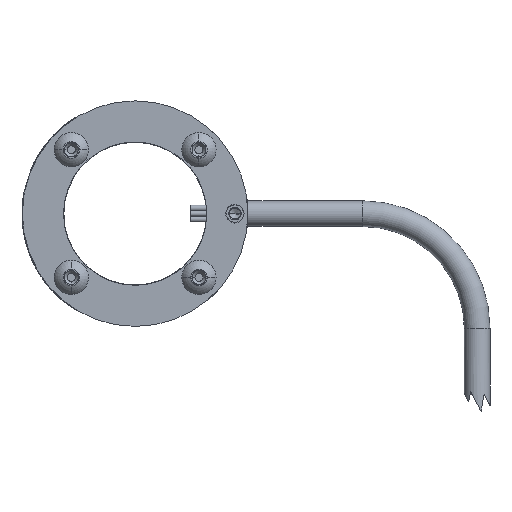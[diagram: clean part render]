
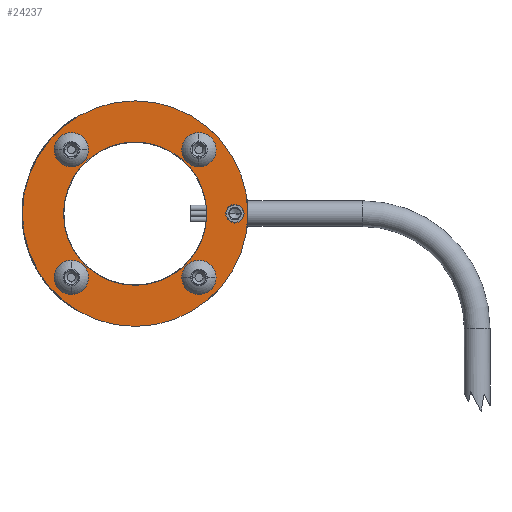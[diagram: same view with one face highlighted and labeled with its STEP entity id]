
A CAD part, front view. The second image highlights one B-rep face of the part: STEP entity #24237.
In plain terms, the highlighted planar face has unit normal (0, -1, 0).
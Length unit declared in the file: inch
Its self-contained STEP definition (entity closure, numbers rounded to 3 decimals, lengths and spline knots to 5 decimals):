
#197 = CIRCLE ( 'NONE', #14238, 0.06496 ) ;
#246 = CARTESIAN_POINT ( 'NONE',  ( 0.55678, 0., 0.49182 ) ) ;
#356 = CIRCLE ( 'NONE', #16890, 0.06496 ) ;
#378 = AXIS2_PLACEMENT_3D ( 'NONE', #1751, #19041, #17143 ) ;
#566 = DIRECTION ( 'NONE',  ( 0., 0., 1. ) ) ;
#1046 = CIRCLE ( 'NONE', #3454, 0.06496 ) ;
#1149 = EDGE_LOOP ( 'NONE', ( #19861, #21563 ) ) ;
#1174 = EDGE_CURVE ( 'NONE', #8850, #17797, #4151, .T. ) ;
#1673 = CARTESIAN_POINT ( 'NONE',  ( 0., 0., 0.625 ) ) ;
#1751 = CARTESIAN_POINT ( 'NONE',  ( 0.55678, 0., -0.55678 ) ) ;
#1879 = DIRECTION ( 'NONE',  ( 0., 0., -1. ) ) ;
#2072 = EDGE_CURVE ( 'NONE', #5225, #10701, #6547, .T. ) ;
#2658 = EDGE_CURVE ( 'NONE', #5389, #6640, #356, .T. ) ;
#2995 = DIRECTION ( 'NONE',  ( 0., 0., -1. ) ) ;
#3006 = CARTESIAN_POINT ( 'NONE',  ( 0., 0., -0.625 ) ) ;
#3112 = ORIENTED_EDGE ( 'NONE', *, *, #21999, .F. ) ;
#3119 = CIRCLE ( 'NONE', #18402, 0.0795 ) ;
#3389 = EDGE_CURVE ( 'NONE', #19702, #4854, #3119, .T. ) ;
#3454 = AXIS2_PLACEMENT_3D ( 'NONE', #11706, #3987, #19574 ) ;
#3569 = ORIENTED_EDGE ( 'NONE', *, *, #14480, .T. ) ;
#3624 = AXIS2_PLACEMENT_3D ( 'NONE', #13076, #20942, #21108 ) ;
#3987 = DIRECTION ( 'NONE',  ( 0., -1., 0. ) ) ;
#4151 = CIRCLE ( 'NONE', #378, 0.06496 ) ;
#4578 = CIRCLE ( 'NONE', #20808, 0.984 ) ;
#4854 = VERTEX_POINT ( 'NONE', #22881 ) ;
#5152 = AXIS2_PLACEMENT_3D ( 'NONE', #5564, #5467, #19410 ) ;
#5225 = VERTEX_POINT ( 'NONE', #9278 ) ;
#5389 = VERTEX_POINT ( 'NONE', #14199 ) ;
#5467 = DIRECTION ( 'NONE',  ( 0., -1., 0. ) ) ;
#5564 = CARTESIAN_POINT ( 'NONE',  ( 0.55678, 0., -0.55678 ) ) ;
#5579 = EDGE_CURVE ( 'NONE', #13173, #22211, #8585, .T. ) ;
#5692 = PLANE ( 'NONE',  #11136 ) ;
#6277 = DIRECTION ( 'NONE',  ( 0., 0., 1. ) ) ;
#6354 = DIRECTION ( 'NONE',  ( 0., 1., 0. ) ) ;
#6547 = CIRCLE ( 'NONE', #12080, 0.06496 ) ;
#6640 = VERTEX_POINT ( 'NONE', #246 ) ;
#7179 = AXIS2_PLACEMENT_3D ( 'NONE', #13628, #25379, #1879 ) ;
#7506 = EDGE_CURVE ( 'NONE', #6640, #5389, #9912, .T. ) ;
#7933 = ORIENTED_EDGE ( 'NONE', *, *, #7506, .F. ) ;
#8099 = CARTESIAN_POINT ( 'NONE',  ( 0., 0., 0. ) ) ;
#8404 = DIRECTION ( 'NONE',  ( 0., 0., -1. ) ) ;
#8585 = CIRCLE ( 'NONE', #22540, 0.625 ) ;
#8850 = VERTEX_POINT ( 'NONE', #24803 ) ;
#9278 = CARTESIAN_POINT ( 'NONE',  ( -0.55678, 0., -0.49182 ) ) ;
#9435 = EDGE_LOOP ( 'NONE', ( #7933, #16337 ) ) ;
#9624 = CARTESIAN_POINT ( 'NONE',  ( 0.55678, 0., -0.62174 ) ) ;
#9672 = ORIENTED_EDGE ( 'NONE', *, *, #24697, .F. ) ;
#9687 = ORIENTED_EDGE ( 'NONE', *, *, #14555, .F. ) ;
#9912 = CIRCLE ( 'NONE', #3624, 0.06496 ) ;
#9928 = ORIENTED_EDGE ( 'NONE', *, *, #1174, .F. ) ;
#9944 = CIRCLE ( 'NONE', #14276, 0.625 ) ;
#9983 = FACE_BOUND ( 'NONE', #24358, .T. ) ;
#10317 = CARTESIAN_POINT ( 'NONE',  ( 0., 0., 0. ) ) ;
#10378 = ORIENTED_EDGE ( 'NONE', *, *, #5579, .T. ) ;
#10671 = CARTESIAN_POINT ( 'NONE',  ( 0.871, 0., 0. ) ) ;
#10701 = VERTEX_POINT ( 'NONE', #23976 ) ;
#10888 = EDGE_CURVE ( 'NONE', #15066, #16962, #4578, .T. ) ;
#11136 = AXIS2_PLACEMENT_3D ( 'NONE', #15561, #11842, #23849 ) ;
#11542 = FACE_BOUND ( 'NONE', #17482, .T. ) ;
#11706 = CARTESIAN_POINT ( 'NONE',  ( -0.55678, 0., 0.55678 ) ) ;
#11842 = DIRECTION ( 'NONE',  ( 0., 1., 0. ) ) ;
#12080 = AXIS2_PLACEMENT_3D ( 'NONE', #21628, #14020, #17829 ) ;
#12187 = CARTESIAN_POINT ( 'NONE',  ( -0.55678, 0., 0.55678 ) ) ;
#12194 = EDGE_CURVE ( 'NONE', #17797, #8850, #24877, .T. ) ;
#12653 = DIRECTION ( 'NONE',  ( 0., -1., 0. ) ) ;
#12696 = CIRCLE ( 'NONE', #18728, 0.984 ) ;
#12767 = DIRECTION ( 'NONE',  ( 0., -1., 0. ) ) ;
#12888 = DIRECTION ( 'NONE',  ( 0., 0., -1. ) ) ;
#13066 = FACE_BOUND ( 'NONE', #1149, .T. ) ;
#13076 = CARTESIAN_POINT ( 'NONE',  ( 0.55678, 0., 0.55678 ) ) ;
#13173 = VERTEX_POINT ( 'NONE', #1673 ) ;
#13481 = CARTESIAN_POINT ( 'NONE',  ( 0., 0., -0.984 ) ) ;
#13628 = CARTESIAN_POINT ( 'NONE',  ( -0.55678, 0., -0.55678 ) ) ;
#14020 = DIRECTION ( 'NONE',  ( 0., -1., 0. ) ) ;
#14133 = AXIS2_PLACEMENT_3D ( 'NONE', #24731, #18845, #12888 ) ;
#14199 = CARTESIAN_POINT ( 'NONE',  ( 0.55678, 0., 0.62174 ) ) ;
#14215 = DIRECTION ( 'NONE',  ( 0., 1., 0. ) ) ;
#14238 = AXIS2_PLACEMENT_3D ( 'NONE', #12187, #16170, #8404 ) ;
#14276 = AXIS2_PLACEMENT_3D ( 'NONE', #18052, #16239, #6277 ) ;
#14480 = EDGE_CURVE ( 'NONE', #22211, #13173, #9944, .T. ) ;
#14555 = EDGE_CURVE ( 'NONE', #16962, #15066, #12696, .T. ) ;
#15066 = VERTEX_POINT ( 'NONE', #20698 ) ;
#15240 = FACE_OUTER_BOUND ( 'NONE', #25397, .T. ) ;
#15561 = CARTESIAN_POINT ( 'NONE',  ( 0., 0., 0. ) ) ;
#15646 = EDGE_CURVE ( 'NONE', #4854, #19702, #17413, .T. ) ;
#15718 = VERTEX_POINT ( 'NONE', #22812 ) ;
#16170 = DIRECTION ( 'NONE',  ( 0., -1., 0. ) ) ;
#16171 = FACE_BOUND ( 'NONE', #24609, .T. ) ;
#16239 = DIRECTION ( 'NONE',  ( 0., 1., 0. ) ) ;
#16337 = ORIENTED_EDGE ( 'NONE', *, *, #2658, .F. ) ;
#16454 = EDGE_LOOP ( 'NONE', ( #9672, #22083 ) ) ;
#16502 = EDGE_CURVE ( 'NONE', #15718, #19687, #1046, .T. ) ;
#16890 = AXIS2_PLACEMENT_3D ( 'NONE', #24608, #12767, #2995 ) ;
#16962 = VERTEX_POINT ( 'NONE', #13481 ) ;
#17143 = DIRECTION ( 'NONE',  ( 0., 0., -1. ) ) ;
#17413 = CIRCLE ( 'NONE', #14133, 0.0795 ) ;
#17482 = EDGE_LOOP ( 'NONE', ( #25387, #9928 ) ) ;
#17797 = VERTEX_POINT ( 'NONE', #9624 ) ;
#17829 = DIRECTION ( 'NONE',  ( 0., 0., -1. ) ) ;
#18052 = CARTESIAN_POINT ( 'NONE',  ( 0., 0., 0. ) ) ;
#18089 = DIRECTION ( 'NONE',  ( 0., 1., 0. ) ) ;
#18227 = CARTESIAN_POINT ( 'NONE',  ( 0., 0., 0. ) ) ;
#18298 = CIRCLE ( 'NONE', #7179, 0.06496 ) ;
#18402 = AXIS2_PLACEMENT_3D ( 'NONE', #10671, #12653, #21820 ) ;
#18728 = AXIS2_PLACEMENT_3D ( 'NONE', #18227, #6354, #566 ) ;
#18829 = CARTESIAN_POINT ( 'NONE',  ( -0.55678, 0., 0.62174 ) ) ;
#18845 = DIRECTION ( 'NONE',  ( 0., -1., 0. ) ) ;
#19041 = DIRECTION ( 'NONE',  ( 0., -1., 0. ) ) ;
#19410 = DIRECTION ( 'NONE',  ( 0., 0., -1. ) ) ;
#19574 = DIRECTION ( 'NONE',  ( 0., 0., -1. ) ) ;
#19687 = VERTEX_POINT ( 'NONE', #18829 ) ;
#19702 = VERTEX_POINT ( 'NONE', #25061 ) ;
#19861 = ORIENTED_EDGE ( 'NONE', *, *, #15646, .F. ) ;
#20473 = FACE_BOUND ( 'NONE', #16454, .T. ) ;
#20698 = CARTESIAN_POINT ( 'NONE',  ( 0., 0., 0.984 ) ) ;
#20808 = AXIS2_PLACEMENT_3D ( 'NONE', #10317, #14215, #21975 ) ;
#20942 = DIRECTION ( 'NONE',  ( 0., -1., 0. ) ) ;
#21108 = DIRECTION ( 'NONE',  ( 0., 0., -1. ) ) ;
#21563 = ORIENTED_EDGE ( 'NONE', *, *, #3389, .F. ) ;
#21628 = CARTESIAN_POINT ( 'NONE',  ( -0.55678, 0., -0.55678 ) ) ;
#21820 = DIRECTION ( 'NONE',  ( 0., 0., -1. ) ) ;
#21893 = DIRECTION ( 'NONE',  ( 0., 0., 1. ) ) ;
#21975 = DIRECTION ( 'NONE',  ( 0., 0., 1. ) ) ;
#21999 = EDGE_CURVE ( 'NONE', #19687, #15718, #197, .T. ) ;
#22083 = ORIENTED_EDGE ( 'NONE', *, *, #2072, .F. ) ;
#22211 = VERTEX_POINT ( 'NONE', #3006 ) ;
#22540 = AXIS2_PLACEMENT_3D ( 'NONE', #8099, #18089, #21893 ) ;
#22812 = CARTESIAN_POINT ( 'NONE',  ( -0.55678, 0., 0.49182 ) ) ;
#22881 = CARTESIAN_POINT ( 'NONE',  ( 0.871, 0., -0.0795 ) ) ;
#23849 = DIRECTION ( 'NONE',  ( 0., 0., 1. ) ) ;
#23976 = CARTESIAN_POINT ( 'NONE',  ( -0.55678, 0., -0.62174 ) ) ;
#24237 = ADVANCED_FACE ( 'NONE', ( #13066, #11542, #20473, #9983, #24500, #15240, #16171 ), #5692, .F. ) ;
#24358 = EDGE_LOOP ( 'NONE', ( #25213, #3112 ) ) ;
#24500 = FACE_BOUND ( 'NONE', #9435, .T. ) ;
#24608 = CARTESIAN_POINT ( 'NONE',  ( 0.55678, 0., 0.55678 ) ) ;
#24609 = EDGE_LOOP ( 'NONE', ( #3569, #10378 ) ) ;
#24697 = EDGE_CURVE ( 'NONE', #10701, #5225, #18298, .T. ) ;
#24731 = CARTESIAN_POINT ( 'NONE',  ( 0.871, 0., 0. ) ) ;
#24803 = CARTESIAN_POINT ( 'NONE',  ( 0.55678, 0., -0.49182 ) ) ;
#24877 = CIRCLE ( 'NONE', #5152, 0.06496 ) ;
#25061 = CARTESIAN_POINT ( 'NONE',  ( 0.871, 0., 0.0795 ) ) ;
#25213 = ORIENTED_EDGE ( 'NONE', *, *, #16502, .F. ) ;
#25379 = DIRECTION ( 'NONE',  ( 0., -1., 0. ) ) ;
#25387 = ORIENTED_EDGE ( 'NONE', *, *, #12194, .F. ) ;
#25397 = EDGE_LOOP ( 'NONE', ( #9687, #25559 ) ) ;
#25559 = ORIENTED_EDGE ( 'NONE', *, *, #10888, .F. ) ;
